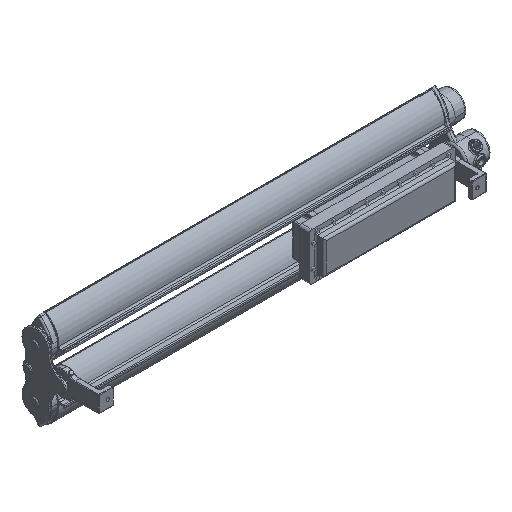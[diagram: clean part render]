
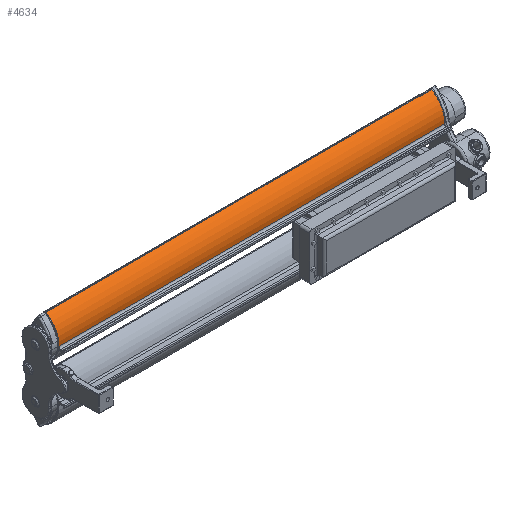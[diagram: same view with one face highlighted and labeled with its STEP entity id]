
A CAD part, isometric view. The second image highlights one B-rep face of the part: STEP entity #4634.
In plain terms, the highlighted cylindrical face has radius 76.103 mm (diameter 152.207 mm), a partial arc.
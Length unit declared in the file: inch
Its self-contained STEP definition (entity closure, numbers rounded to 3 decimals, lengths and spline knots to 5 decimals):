
#683 = ORIENTED_EDGE ( 'NONE', *, *, #31703, .T. ) ;
#844 = CARTESIAN_POINT ( 'NONE',  ( 0.21331, 1.87672, 47. ) ) ;
#2212 = DIRECTION ( 'NONE',  ( 0., 0., 1. ) ) ;
#3406 = FACE_OUTER_BOUND ( 'NONE', #7762, .T. ) ;
#3851 = DIRECTION ( 'NONE',  ( 0., 0., -1. ) ) ;
#4634 = ADVANCED_FACE ( 'NONE', ( #3406 ), #6952, .T. ) ;
#5285 = AXIS2_PLACEMENT_3D ( 'NONE', #37690, #14005, #14130 ) ;
#6952 = CYLINDRICAL_SURFACE ( 'NONE', #5285, 2.9962 ) ;
#7762 = EDGE_LOOP ( 'NONE', ( #30368, #683, #11760, #14899 ) ) ;
#8667 = CIRCLE ( 'NONE', #30342, 2.9962 ) ;
#9267 = DIRECTION ( 'NONE',  ( 0., 0., 1. ) ) ;
#9300 = CARTESIAN_POINT ( 'NONE',  ( 0.21331, 1.87672, 0. ) ) ;
#11760 = ORIENTED_EDGE ( 'NONE', *, *, #16085, .F. ) ;
#12787 = EDGE_CURVE ( 'NONE', #16583, #36708, #30845, .T. ) ;
#13248 = CARTESIAN_POINT ( 'NONE',  ( -2.62633, 0.24461, 0. ) ) ;
#14005 = DIRECTION ( 'NONE',  ( 0., 0., -1. ) ) ;
#14045 = CARTESIAN_POINT ( 'NONE',  ( 0.04379, -1.11468, 47. ) ) ;
#14130 = DIRECTION ( 'NONE',  ( -1., 0., 0. ) ) ;
#14899 = ORIENTED_EDGE ( 'NONE', *, *, #35038, .T. ) ;
#15119 = VERTEX_POINT ( 'NONE', #18319 ) ;
#15307 = VECTOR ( 'NONE', #3851, 39.37008 ) ;
#15779 = VERTEX_POINT ( 'NONE', #28991 ) ;
#16085 = EDGE_CURVE ( 'NONE', #15779, #15119, #8667, .T. ) ;
#16204 = VECTOR ( 'NONE', #2212, 39.37008 ) ;
#16583 = VERTEX_POINT ( 'NONE', #9300 ) ;
#17076 = DIRECTION ( 'NONE',  ( -1., 0., 0. ) ) ;
#17168 = LINE ( 'NONE', #37752, #16204 ) ;
#18319 = CARTESIAN_POINT ( 'NONE',  ( -2.62633, 0.24461, 47. ) ) ;
#27129 = CARTESIAN_POINT ( 'NONE',  ( 0.04379, -1.11468, 0. ) ) ;
#28991 = CARTESIAN_POINT ( 'NONE',  ( 0.21331, 1.87672, 47. ) ) ;
#30098 = DIRECTION ( 'NONE',  ( -1., 0., 0. ) ) ;
#30342 = AXIS2_PLACEMENT_3D ( 'NONE', #14045, #34793, #17076 ) ;
#30368 = ORIENTED_EDGE ( 'NONE', *, *, #12787, .T. ) ;
#30845 = CIRCLE ( 'NONE', #38146, 2.9962 ) ;
#31703 = EDGE_CURVE ( 'NONE', #36708, #15119, #17168, .T. ) ;
#34793 = DIRECTION ( 'NONE',  ( 0., 0., 1. ) ) ;
#35038 = EDGE_CURVE ( 'NONE', #15779, #16583, #37991, .T. ) ;
#36708 = VERTEX_POINT ( 'NONE', #13248 ) ;
#37690 = CARTESIAN_POINT ( 'NONE',  ( 0.04379, -1.11468, 47. ) ) ;
#37752 = CARTESIAN_POINT ( 'NONE',  ( -2.62633, 0.24461, 47. ) ) ;
#37991 = LINE ( 'NONE', #844, #15307 ) ;
#38146 = AXIS2_PLACEMENT_3D ( 'NONE', #27129, #9267, #30098 ) ;
